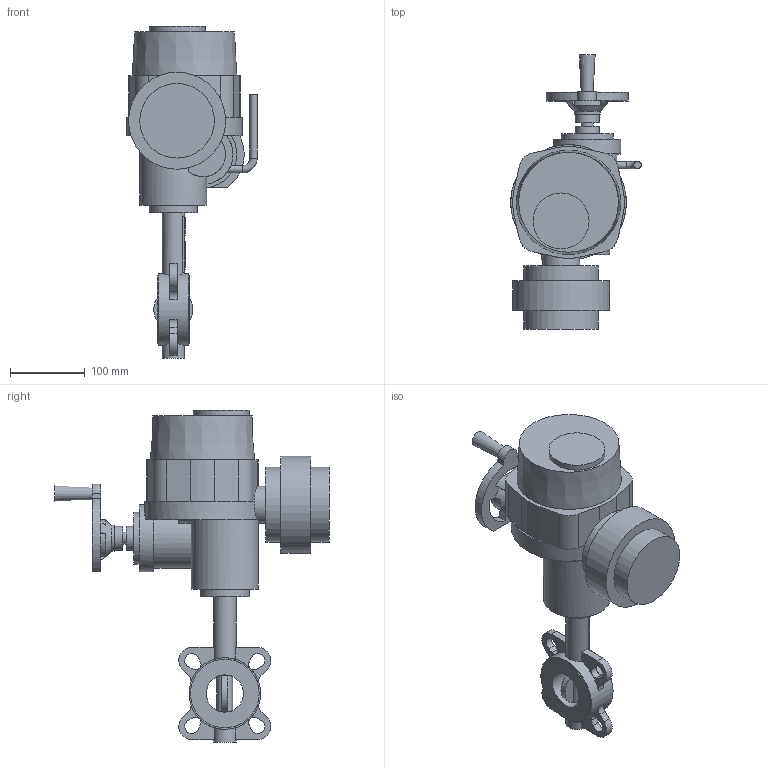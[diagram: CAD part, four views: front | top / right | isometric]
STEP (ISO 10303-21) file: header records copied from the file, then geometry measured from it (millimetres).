
FILE_DESCRIPTION(('STEP AP203'), '1');
FILE_NAME('青蜮铕 017W.ZS DN50+菹 QT.A005', '', ('UNSPECIFIED'), ('UNSPECIFIED'), 'ASCON STEP Converter 1.6', 'ASCON Math Kernel', '');
FILE_SCHEMA(('CONFIG_CONTROL_DESIGN'));
Length unit declared in the file: millimetre
Bounding box: 175 x 368 x 445 mm (x, y, z)
Volume: 4556484.4 mm3; surface area: 313789.7 mm2
Topology: 1 solids, 2 shells, 713 faces, 2052 edges, 1317 vertices
Faces by surface type: cylinder 476, plane 233, cone 3, torus 1
Full cylindrical faces by diameter (mm): 6.7 x8, 8 x4, 10 x2, 12.6 x1, 16 x1, 20 x1, 21 x1, 30 x2, 32 x2, 35 x2, 50 x2, 65 x1, 70 x1, 75 x1, 90 x2, 92 x2, 96 x1, 100 x2, 130 x1
Entity records: 30588 total; most frequent: CARTESIAN_POINT 5317, DIRECTION 4459, ORIENTED_EDGE 3961, EDGE_CURVE 2012, AXIS2_PLACEMENT_3D 1761, VERTEX_POINT 1317, CIRCLE 1047, LINE 937
